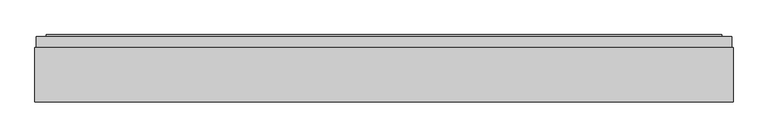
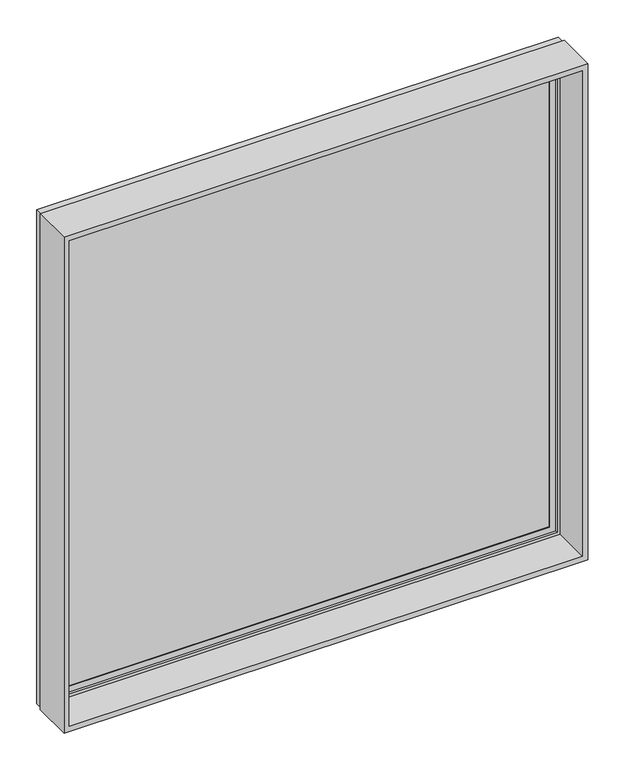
"""IFC4 building model written with IfcOpenShell, lengths in millimetres: plate geometry, SCISSOR PANEL : SCISSOR PANEL."""

from ifc_helpers import new_model, si_unit, frame, origin, place, context, project, spatial, polyline, outline, extrude, faceted_brep, source, transform, mapped, element, save


def plate_e7452605(model_context):
    return source(origin(), model_context, "Body", "SolidModel", [
        extrude(outline(polyline([(1700.0, -850.0), (0.0, -850.0), (0.0, 850.0), (1700.0, 850.0), (1700.0, -850.0)]), holes=[polyline([(17.5, -832.5), (1682.5, -832.5), (1682.5, 832.5), (17.5, 832.5), (17.5, -832.5)])]), frame((0.0, 0.0, 0.0), z_axis=(0.0, 1.0, 0.0), x_axis=(0.0, 0.0, 1.0)), (0.0, 0.0, 1.0), 132.5),
        extrude(outline(polyline([(-819.5, 160.5), (819.5, 160.5), (819.5, 135.5), (-819.5, 135.5), (-819.5, 160.5)])), frame((0.0, 0.0, 30.5), z_axis=(0.0, 0.0, 1.0), x_axis=(1.0, 0.0, 0.0)), (0.0, 0.0, 1.0), 1639.0),
        faceted_brep([(-802.5, 135.5, 1652.5), (-802.5, 132.5, 1652.5), (-802.5, 132.5, 47.5), (-802.5, 135.5, 47.5), (-819.5, 160.5, 1669.5), (-819.5, 135.5, 1669.5), (-819.5, 135.5, 30.5), (-819.5, 160.5, 30.5), (-802.5, 163.5, 1652.5), (-802.5, 160.5, 1652.5), (-802.5, 160.5, 47.5), (-802.5, 163.5, 47.5), (-822.5, 132.5, 1672.5), (-822.5, 163.5, 1672.5), (-822.5, 163.5, 27.5), (-822.5, 132.5, 27.5), (802.5, 132.5, 47.5), (802.5, 135.5, 47.5), (819.5, 135.5, 30.5), (819.5, 160.5, 30.5), (802.5, 160.5, 47.5), (802.5, 163.5, 47.5), (822.5, 163.5, 27.5), (822.5, 132.5, 27.5), (802.5, 132.5, 1652.5), (802.5, 135.5, 1652.5), (819.5, 135.5, 1669.5), (819.5, 160.5, 1669.5), (802.5, 160.5, 1652.5), (802.5, 163.5, 1652.5), (822.5, 163.5, 1672.5), (822.5, 132.5, 1672.5)], [[[0, 1, 2, 3]], [[4, 5, 6, 7]], [[8, 9, 10, 11]], [[12, 13, 14, 15]], [[3, 2, 16, 17]], [[7, 6, 18, 19]], [[11, 10, 20, 21]], [[15, 14, 22, 23]], [[17, 16, 24, 25]], [[19, 18, 26, 27]], [[21, 20, 28, 29]], [[23, 22, 30, 31]], [[15, 23, 31, 12], [1, 24, 16, 2]], [[25, 24, 1, 0]], [[5, 26, 18, 6], [3, 17, 25, 0]], [[27, 26, 5, 4]], [[7, 19, 27, 4], [9, 28, 20, 10]], [[29, 28, 9, 8]], [[13, 30, 22, 14], [11, 21, 29, 8]], [[31, 30, 13, 12]]]),
        faceted_brep([(-846.5, 132.5, 1696.5), (-846.5, 158.75, 1696.5), (-846.5, 158.75, 3.5), (-846.5, 132.5, 3.5), (-839.5, 150.0, 1689.5), (-839.5, 132.5, 1689.5), (-839.5, 132.5, 10.5), (-839.5, 150.0, 10.5), (-832.5, 123.75, 1682.5), (-832.5, 150.0, 1682.5), (-832.5, 150.0, 17.5), (-832.5, 123.75, 17.5), (-822.5, 158.75, 1672.5), (-822.5, 123.75, 1672.5), (-822.5, 123.75, 27.5), (-822.5, 158.75, 27.5), (846.5, 158.75, 3.5), (846.5, 132.5, 3.5), (839.5, 132.5, 10.5), (839.5, 150.0, 10.5), (832.5, 150.0, 17.5), (832.5, 123.75, 17.5), (822.5, 123.75, 27.5), (822.5, 158.75, 27.5), (846.5, 158.75, 1696.5), (846.5, 132.5, 1696.5), (839.5, 132.5, 1689.5), (839.5, 150.0, 1689.5), (832.5, 150.0, 1682.5), (832.5, 123.75, 1682.5), (822.5, 123.75, 1672.5), (822.5, 158.75, 1672.5)], [[[0, 1, 2, 3]], [[4, 5, 6, 7]], [[8, 9, 10, 11]], [[12, 13, 14, 15]], [[3, 2, 16, 17]], [[7, 6, 18, 19]], [[11, 10, 20, 21]], [[15, 14, 22, 23]], [[17, 16, 24, 25]], [[19, 18, 26, 27]], [[21, 20, 28, 29]], [[23, 22, 30, 31]], [[25, 24, 1, 0]], [[3, 17, 25, 0], [5, 26, 18, 6]], [[27, 26, 5, 4]], [[7, 19, 27, 4], [9, 28, 20, 10]], [[29, 28, 9, 8]], [[11, 21, 29, 8], [13, 30, 22, 14]], [[31, 30, 13, 12]], [[1, 24, 16, 2], [15, 23, 31, 12]]]),
        extrude(outline(polyline([(1689.5, -839.5), (10.5, -839.5), (10.5, 839.5), (1689.5, 839.5), (1689.5, -839.5)]), holes=[polyline([(1682.5, -832.5), (1682.5, 832.5), (17.5, 832.5), (17.5, -832.5), (1682.5, -832.5)])]), frame((0.0, 132.5, 0.0), z_axis=(0.0, 1.0, 0.0), x_axis=(0.0, 0.0, 1.0)), (0.0, 0.0, 1.0), 17.5),
    ])


if __name__ == "__main__":
    model = new_model("IFC4")
    model_context = context("Model", 3, world=origin())
    ifc_project = project(units=[si_unit("LENGTHUNIT", "METRE", prefix="MILLI")], contexts=[model_context])
    site = spatial("IfcSite", under=ifc_project)
    building = spatial("IfcBuilding", under=site)
    placement = place(None, origin())
    plate_shape = plate_e7452605(model_context)
    element("IfcPlate", 1, ObjectType="SCISSOR PANEL : SCISSOR PANEL", at=placement, inside=building, context=model_context, shape_type="MappedRepresentation", body=[
        mapped(plate_shape, transform((0.0, 0.0, 0.0), x_axis=(1.0, 0.0, 0.0), y_axis=(0.0, 1.0, 0.0), z_axis=(0.0, 0.0, 1.0))),
    ])
    save(model, "model.ifc")
